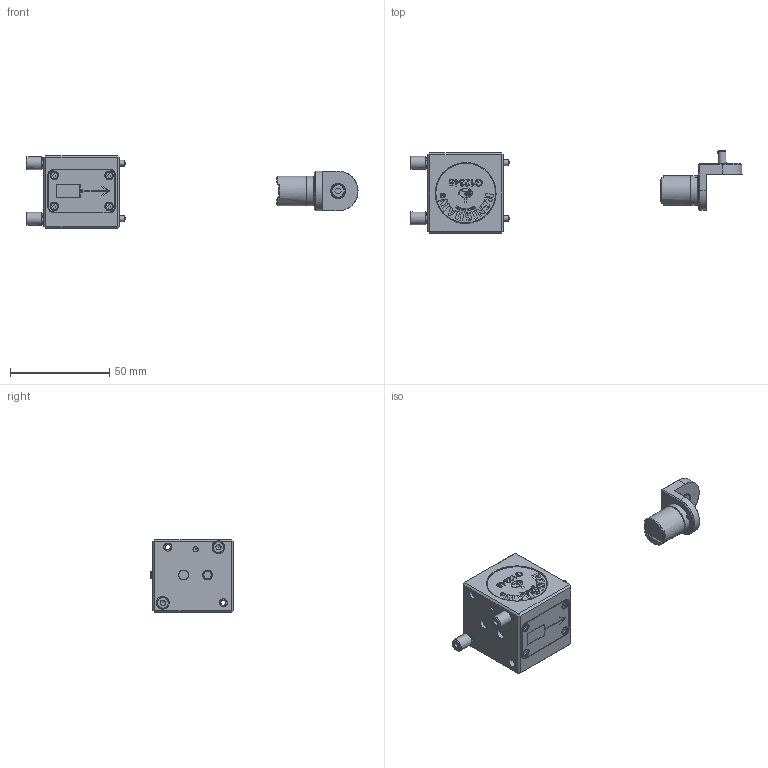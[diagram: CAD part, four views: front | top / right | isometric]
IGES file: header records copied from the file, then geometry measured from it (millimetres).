
Global section: file name: Y:\_LCPD Drawings\13.1 Lightweight Models\8003\LA-8003-3244  SMALL LINEAR OPTICS KIT\LA_8003_3244_A.igs; native system: NX V7.5; preprocessor: SIEMENS PLM Software NX 7.5; date: 20111222.102033; units: millimetre
Bounding box: 167.02 x 41.6 x 37 mm (x, y, z)
Surface area: 18158.1 mm2 (no closed solid volume)
Topology: 0 solids, 0 shells, 782 faces, 4963 edges, 4825 vertices
Faces by surface type: bspline 782
